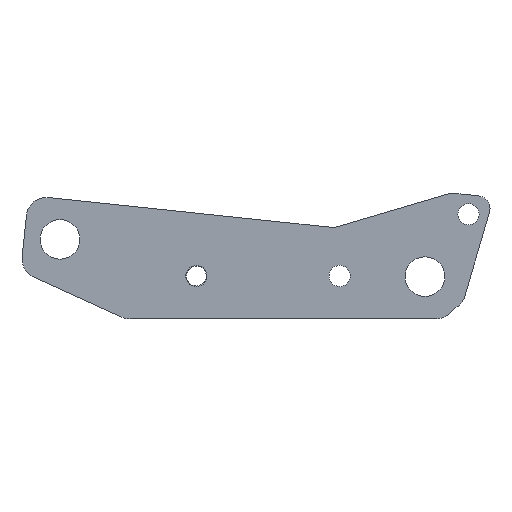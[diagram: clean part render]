
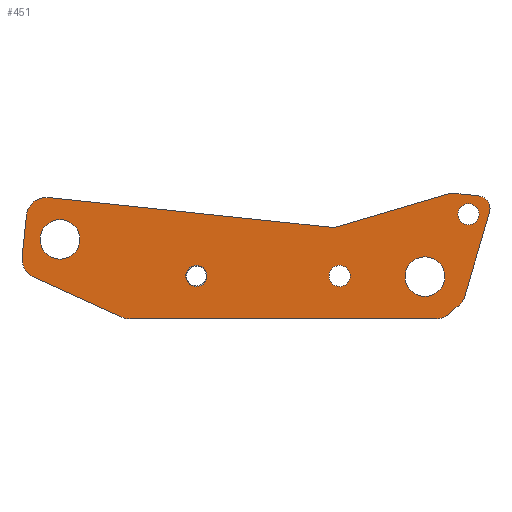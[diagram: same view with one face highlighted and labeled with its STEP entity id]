
A CAD part, left-side view. The second image highlights one B-rep face of the part: STEP entity #451.
In plain terms, the highlighted planar face has unit normal (-1, 0, 0).
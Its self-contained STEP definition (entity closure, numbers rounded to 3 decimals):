
#451=ADVANCED_FACE('',(#504,#506,#508,#510,#512,#514),#516,.F.);
#504=FACE_BOUND('',#505,.T.);
#505=EDGE_LOOP('',(#943,#944,#945,#946,#947,#948,#949,#950,#951,#952,#953,#954,#955,
#956,#957,#958));
#506=FACE_BOUND('',#507,.T.);
#507=EDGE_LOOP('',(#959));
#508=FACE_BOUND('',#509,.T.);
#509=EDGE_LOOP('',(#960));
#510=FACE_BOUND('',#511,.T.);
#511=EDGE_LOOP('',(#961));
#512=FACE_BOUND('',#513,.T.);
#513=EDGE_LOOP('',(#962));
#514=FACE_BOUND('',#515,.T.);
#515=EDGE_LOOP('',(#963));
#516=PLANE('',#517);
#517=AXIS2_PLACEMENT_3D('',#518,#519,#520);
#518=CARTESIAN_POINT('',(0.,0.,0.));
#519=DIRECTION('',(1.,0.,0.));
#520=DIRECTION('',(0.,1.,0.));
#943=ORIENTED_EDGE('',*,*,#1153,.F.);
#944=ORIENTED_EDGE('',*,*,#1154,.F.);
#945=ORIENTED_EDGE('',*,*,#1155,.F.);
#946=ORIENTED_EDGE('',*,*,#1156,.F.);
#947=ORIENTED_EDGE('',*,*,#1157,.F.);
#948=ORIENTED_EDGE('',*,*,#1158,.F.);
#949=ORIENTED_EDGE('',*,*,#1159,.F.);
#950=ORIENTED_EDGE('',*,*,#1160,.F.);
#951=ORIENTED_EDGE('',*,*,#1161,.F.);
#952=ORIENTED_EDGE('',*,*,#1162,.F.);
#953=ORIENTED_EDGE('',*,*,#1163,.F.);
#954=ORIENTED_EDGE('',*,*,#1164,.F.);
#955=ORIENTED_EDGE('',*,*,#1165,.F.);
#956=ORIENTED_EDGE('',*,*,#1166,.F.);
#957=ORIENTED_EDGE('',*,*,#1167,.F.);
#958=ORIENTED_EDGE('',*,*,#1168,.F.);
#959=ORIENTED_EDGE('',*,*,#1169,.T.);
#960=ORIENTED_EDGE('',*,*,#1170,.T.);
#961=ORIENTED_EDGE('',*,*,#1171,.T.);
#962=ORIENTED_EDGE('',*,*,#1172,.T.);
#963=ORIENTED_EDGE('',*,*,#1173,.T.);
#1153=EDGE_CURVE('',#1258,#1259,#1260,.T.);
#1154=EDGE_CURVE('',#1261,#1258,#1262,.T.);
#1155=EDGE_CURVE('',#1263,#1261,#1264,.T.);
#1156=EDGE_CURVE('',#1265,#1263,#1266,.T.);
#1157=EDGE_CURVE('',#1267,#1265,#1268,.T.);
#1158=EDGE_CURVE('',#1269,#1267,#1270,.T.);
#1159=EDGE_CURVE('',#1271,#1269,#1272,.T.);
#1160=EDGE_CURVE('',#1273,#1271,#1274,.T.);
#1161=EDGE_CURVE('',#1275,#1273,#1276,.T.);
#1162=EDGE_CURVE('',#1277,#1275,#1278,.T.);
#1163=EDGE_CURVE('',#1279,#1277,#1280,.T.);
#1164=EDGE_CURVE('',#1281,#1279,#1282,.T.);
#1165=EDGE_CURVE('',#1283,#1281,#1284,.T.);
#1166=EDGE_CURVE('',#1285,#1283,#1286,.T.);
#1167=EDGE_CURVE('',#1287,#1285,#1288,.T.);
#1168=EDGE_CURVE('',#1259,#1287,#1289,.T.);
#1169=EDGE_CURVE('',#1290,#1290,#1291,.T.);
#1170=EDGE_CURVE('',#1292,#1292,#1293,.T.);
#1171=EDGE_CURVE('',#1294,#1294,#1295,.T.);
#1172=EDGE_CURVE('',#1296,#1296,#1297,.T.);
#1173=EDGE_CURVE('',#1298,#1298,#1299,.T.);
#1258=VERTEX_POINT('',#1442);
#1259=VERTEX_POINT('',#1443);
#1260=CIRCLE('',#1444,30.);
#1261=VERTEX_POINT('',#1448);
#1262=LINE('',#1449,#1450);
#1263=VERTEX_POINT('',#1452);
#1264=CIRCLE('',#1453,30.);
#1265=VERTEX_POINT('',#1457);
#1266=LINE('',#1458,#1459);
#1267=VERTEX_POINT('',#1461);
#1268=CIRCLE('',#1462,30.);
#1269=VERTEX_POINT('',#1466);
#1270=LINE('',#1467,#1468);
#1271=VERTEX_POINT('',#1470);
#1272=CIRCLE('',#1471,25.);
#1273=VERTEX_POINT('',#1475);
#1274=LINE('',#1476,#1477);
#1275=VERTEX_POINT('',#1479);
#1276=CIRCLE('',#1480,25.);
#1277=VERTEX_POINT('',#1484);
#1278=LINE('',#1485,#1486);
#1279=VERTEX_POINT('',#1488);
#1280=CIRCLE('',#1489,20.);
#1281=VERTEX_POINT('',#1493);
#1282=LINE('',#1494,#1495);
#1283=VERTEX_POINT('',#1497);
#1284=CIRCLE('',#1498,5.);
#1285=VERTEX_POINT('',#1502);
#1286=LINE('',#1503,#1504);
#1287=VERTEX_POINT('',#1506);
#1288=CIRCLE('',#1507,25.);
#1289=LINE('',#1511,#1512);
#1290=VERTEX_POINT('',#1514);
#1291=CIRCLE('',#1515,30.05);
#1292=VERTEX_POINT('',#1519);
#1293=CIRCLE('',#1520,30.05);
#1294=VERTEX_POINT('',#1524);
#1295=CIRCLE('',#1525,16.05);
#1296=VERTEX_POINT('',#1529);
#1297=CIRCLE('',#1530,16.05);
#1298=VERTEX_POINT('',#1534);
#1299=CIRCLE('',#1535,16.05);
#1442=CARTESIAN_POINT('',(0.,630.358,157.106));
#1443=CARTESIAN_POINT('',(0.,597.387,183.805));
#1444=AXIS2_PLACEMENT_3D('',#1445,#1446,#1447);
#1445=CARTESIAN_POINT('',(0.,600.523,153.97));
#1446=DIRECTION('',(1.,0.,0.));
#1447=DIRECTION('',(0.,0.995,0.105));
#1448=CARTESIAN_POINT('',(0.,636.986,94.05));
#1449=CARTESIAN_POINT('',(0.,636.986,94.05));
#1450=VECTOR('',#1451,1.);
#1451=DIRECTION('',(0.,-0.105,0.995));
#1452=CARTESIAN_POINT('',(0.,619.591,63.615));
#1453=AXIS2_PLACEMENT_3D('',#1454,#1455,#1456);
#1454=CARTESIAN_POINT('',(0.,607.15,90.914));
#1455=DIRECTION('',(1.,0.,0.));
#1456=DIRECTION('',(0.,0.415,-0.91));
#1457=CARTESIAN_POINT('',(0.,485.927,2.701));
#1458=CARTESIAN_POINT('',(0.,485.927,2.701));
#1459=VECTOR('',#1460,1.);
#1460=DIRECTION('',(0.,0.91,0.415));
#1461=CARTESIAN_POINT('',(0.,473.486,0.));
#1462=AXIS2_PLACEMENT_3D('',#1463,#1464,#1465);
#1463=CARTESIAN_POINT('',(0.,473.486,30.));
#1464=DIRECTION('',(1.,0.,0.));
#1465=DIRECTION('',(0.,0.,-1.));
#1466=CARTESIAN_POINT('',(0.,9.099,0.));
#1467=CARTESIAN_POINT('',(0.,9.099,0.));
#1468=VECTOR('',#1469,1.);
#1469=DIRECTION('',(0.,1.,0.));
#1470=CARTESIAN_POINT('',(0.,-6.97,5.849));
#1471=AXIS2_PLACEMENT_3D('',#1472,#1473,#1474);
#1472=CARTESIAN_POINT('',(0.,9.099,25.));
#1473=DIRECTION('',(1.,0.,0.));
#1474=DIRECTION('',(0.,-0.643,-0.766));
#1475=CARTESIAN_POINT('',(0.,-24.878,20.875));
#1476=CARTESIAN_POINT('',(0.,-24.878,20.875));
#1477=VECTOR('',#1478,1.);
#1478=DIRECTION('',(0.,0.766,-0.643));
#1479=CARTESIAN_POINT('',(0.,-32.779,32.926));
#1480=AXIS2_PLACEMENT_3D('',#1481,#1482,#1483);
#1481=CARTESIAN_POINT('',(0.,-8.808,40.026));
#1482=DIRECTION('',(1.,0.,0.));
#1483=DIRECTION('',(0.,-0.959,-0.284));
#1484=CARTESIAN_POINT('',(0.,-70.674,160.86));
#1485=CARTESIAN_POINT('',(0.,-70.674,160.86));
#1486=VECTOR('',#1487,1.);
#1487=DIRECTION('',(0.,0.284,-0.959));
#1488=CARTESIAN_POINT('',(0.,-53.589,186.43));
#1489=AXIS2_PLACEMENT_3D('',#1490,#1491,#1492);
#1490=CARTESIAN_POINT('',(0.,-51.498,166.54));
#1491=DIRECTION('',(1.,0.,0.));
#1492=DIRECTION('',(0.,-0.105,0.995));
#1493=CARTESIAN_POINT('',(0.,-13.849,190.607));
#1494=CARTESIAN_POINT('',(0.,-13.849,190.607));
#1495=VECTOR('',#1496,1.);
#1496=DIRECTION('',(0.,-0.995,-0.105));
#1497=CARTESIAN_POINT('',(0.,-11.907,190.429));
#1498=AXIS2_PLACEMENT_3D('',#1499,#1500,#1501);
#1499=CARTESIAN_POINT('',(0.,-13.327,185.635));
#1500=DIRECTION('',(1.,0.,0.));
#1501=DIRECTION('',(0.,0.284,0.959));
#1502=CARTESIAN_POINT('',(0.,159.401,139.685));
#1503=CARTESIAN_POINT('',(0.,159.401,139.685));
#1504=VECTOR('',#1505,1.);
#1505=DIRECTION('',(0.,-0.959,0.284));
#1506=CARTESIAN_POINT('',(0.,169.115,138.792));
#1507=AXIS2_PLACEMENT_3D('',#1508,#1509,#1510);
#1508=CARTESIAN_POINT('',(0.,166.502,163.655));
#1509=DIRECTION('',(-1.,0.,0.));
#1510=DIRECTION('',(0.,0.105,-0.995));
#1511=CARTESIAN_POINT('',(0.,597.387,183.805));
#1512=VECTOR('',#1513,1.);
#1513=DIRECTION('',(0.,-0.995,-0.105));
#1514=CARTESIAN_POINT('',(0.,57.102,64.05));
#1515=AXIS2_PLACEMENT_3D('',#1516,#1517,#1518);
#1516=CARTESIAN_POINT('',(0.,27.052,64.05));
#1517=DIRECTION('',(1.,0.,0.));
#1518=DIRECTION('',(0.,1.,0.));
#1519=CARTESIAN_POINT('',(0.,609.602,120.55));
#1520=AXIS2_PLACEMENT_3D('',#1521,#1522,#1523);
#1521=CARTESIAN_POINT('',(0.,579.552,120.55));
#1522=DIRECTION('',(1.,0.,0.));
#1523=DIRECTION('',(0.,1.,0.));
#1524=CARTESIAN_POINT('',(0.,-22.898,158.55));
#1525=AXIS2_PLACEMENT_3D('',#1526,#1527,#1528);
#1526=CARTESIAN_POINT('',(0.,-38.948,158.55));
#1527=DIRECTION('',(1.,0.,0.));
#1528=DIRECTION('',(0.,1.,0.));
#1529=CARTESIAN_POINT('',(0.,172.102,65.05));
#1530=AXIS2_PLACEMENT_3D('',#1531,#1532,#1533);
#1531=CARTESIAN_POINT('',(0.,156.052,65.05));
#1532=DIRECTION('',(1.,0.,0.));
#1533=DIRECTION('',(0.,1.,0.));
#1534=CARTESIAN_POINT('',(0.,389.202,65.05));
#1535=AXIS2_PLACEMENT_3D('',#1536,#1537,#1538);
#1536=CARTESIAN_POINT('',(0.,373.152,65.05));
#1537=DIRECTION('',(1.,0.,0.));
#1538=DIRECTION('',(0.,1.,0.));
